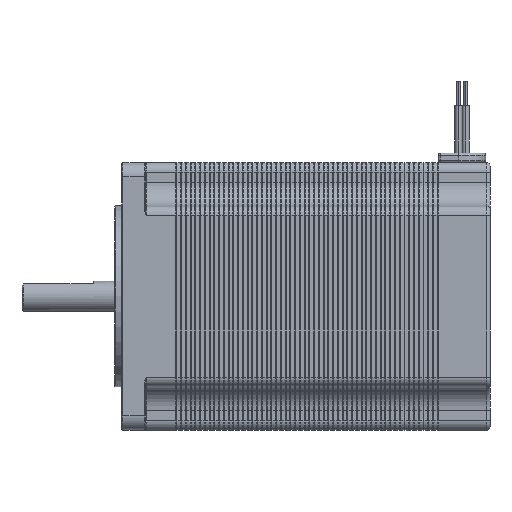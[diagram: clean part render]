
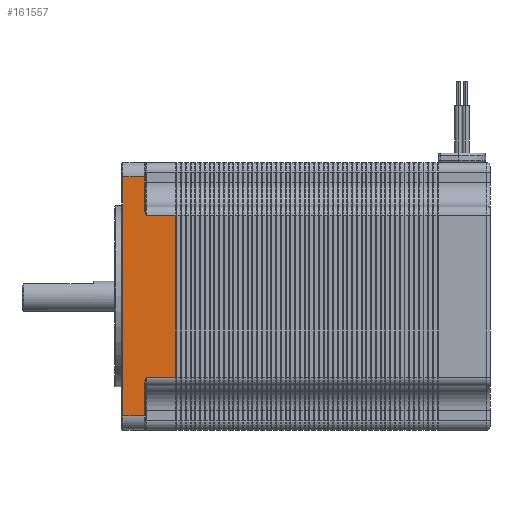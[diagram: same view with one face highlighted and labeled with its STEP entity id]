
A CAD part, left-side view. The second image highlights one B-rep face of the part: STEP entity #161557.
In plain terms, the highlighted planar face has unit normal (-1, 0, 0).
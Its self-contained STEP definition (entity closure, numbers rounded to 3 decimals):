
#8446 = CARTESIAN_POINT ( 'NONE',  ( -28.15, 72.7, 18.265 ) ) ;
#9025 = DIRECTION ( 'NONE',  ( 0., -1., 0. ) ) ;
#9076 = CARTESIAN_POINT ( 'NONE',  ( -28.15, 72.3, 17. ) ) ;
#12079 = VERTEX_POINT ( 'NONE', #180905 ) ;
#12296 = CARTESIAN_POINT ( 'NONE',  ( -28.15, 66.1, 17. ) ) ;
#12301 = EDGE_CURVE ( 'NONE', #156338, #24922, #88857, .T. ) ;
#14549 = VECTOR ( 'NONE', #89444, 1000. ) ;
#15779 = EDGE_CURVE ( 'NONE', #24922, #12079, #30907, .T. ) ;
#16186 = CARTESIAN_POINT ( 'NONE',  ( -28.15, 72.7, -17. ) ) ;
#23058 = CARTESIAN_POINT ( 'NONE',  ( -28.15, 72.7, -18.265 ) ) ;
#23870 = LINE ( 'NONE', #186132, #179171 ) ;
#24922 = VERTEX_POINT ( 'NONE', #79138 ) ;
#26631 = ORIENTED_EDGE ( 'NONE', *, *, #41715, .T. ) ;
#26783 = CARTESIAN_POINT ( 'NONE',  ( -28.15, 72.395, -17.201 ) ) ;
#29677 = EDGE_CURVE ( 'NONE', #79791, #139482, #116430, .T. ) ;
#30907 = LINE ( 'NONE', #87602, #14549 ) ;
#31138 = ORIENTED_EDGE ( 'NONE', *, *, #12301, .T. ) ;
#32198 = VECTOR ( 'NONE', #61437, 1000. ) ;
#32934 = ORIENTED_EDGE ( 'NONE', *, *, #79434, .T. ) ;
#40046 = EDGE_CURVE ( 'NONE', #48127, #129444, #52380, .T. ) ;
#40392 = ORIENTED_EDGE ( 'NONE', *, *, #124924, .T. ) ;
#41715 = EDGE_CURVE ( 'NONE', #48127, #111934, #114229, .T. ) ;
#44713 = VECTOR ( 'NONE', #148333, 1000. ) ;
#46056 = LINE ( 'NONE', #103680, #183077 ) ;
#46230 = ORIENTED_EDGE ( 'NONE', *, *, #40046, .F. ) ;
#48127 = VERTEX_POINT ( 'NONE', #159831 ) ;
#48949 = LINE ( 'NONE', #81054, #185785 ) ;
#52380 = LINE ( 'NONE', #109968, #126242 ) ;
#54133 = CARTESIAN_POINT ( 'NONE',  ( -28.15, 72.491, -17.403 ) ) ;
#55999 = CARTESIAN_POINT ( 'NONE',  ( -28.15, 77.3, 25.15 ) ) ;
#56239 = EDGE_CURVE ( 'NONE', #79791, #156338, #46056, .T. ) ;
#61437 = DIRECTION ( 'NONE',  ( 0., 0., 1. ) ) ;
#69271 = PLANE ( 'NONE',  #161890 ) ;
#73322 = ORIENTED_EDGE ( 'NONE', *, *, #29677, .F. ) ;
#73952 = DIRECTION ( 'NONE',  ( 0., 1., 0. ) ) ;
#77137 = EDGE_CURVE ( 'NONE', #160780, #139482, #23870, .T. ) ;
#79138 = CARTESIAN_POINT ( 'NONE',  ( -28.15, 72.3, -17. ) ) ;
#79434 = EDGE_CURVE ( 'NONE', #12079, #129444, #121945, .T. ) ;
#79791 = VERTEX_POINT ( 'NONE', #167750 ) ;
#79868 = CARTESIAN_POINT ( 'NONE',  ( -28.15, 72.642, 17.823 ) ) ;
#80350 = VECTOR ( 'NONE', #73952, 1000. ) ;
#81054 = CARTESIAN_POINT ( 'NONE',  ( -28.15, 72.5, 25.15 ) ) ;
#87602 = CARTESIAN_POINT ( 'NONE',  ( -28.15, 77.5, -17. ) ) ;
#88857 = B_SPLINE_CURVE_WITH_KNOTS ( 'NONE', 3,
 ( #23058, #138202, #141926, #54133, #26783, #157820 ),
 .UNSPECIFIED., .F., .F.,
 ( 4, 2, 4 ),
 ( 0., 0.001, 0.001 ),
 .UNSPECIFIED. ) ;
#89444 = DIRECTION ( 'NONE',  ( 0., -1., 0. ) ) ;
#103046 = CARTESIAN_POINT ( 'NONE',  ( -28.15, 77.3, -25.15 ) ) ;
#103358 = ORIENTED_EDGE ( 'NONE', *, *, #77137, .T. ) ;
#103680 = CARTESIAN_POINT ( 'NONE',  ( -28.15, 72.7, -17. ) ) ;
#104114 = CARTESIAN_POINT ( 'NONE',  ( -28.15, 72.7, 25.15 ) ) ;
#108130 = ORIENTED_EDGE ( 'NONE', *, *, #15779, .T. ) ;
#108505 = CARTESIAN_POINT ( 'NONE',  ( -28.15, 72.7, -18.265 ) ) ;
#109968 = CARTESIAN_POINT ( 'NONE',  ( -28.15, 77.5, 17. ) ) ;
#110011 = CARTESIAN_POINT ( 'NONE',  ( -28.15, 72.7, 18.04 ) ) ;
#110797 = DIRECTION ( 'NONE',  ( 1., 0., 0. ) ) ;
#111934 = VERTEX_POINT ( 'NONE', #8446 ) ;
#112812 = CARTESIAN_POINT ( 'NONE',  ( -28.15, 72.395, 17.202 ) ) ;
#114229 = B_SPLINE_CURVE_WITH_KNOTS ( 'NONE', 3,
 ( #9076, #112812, #126954, #79868, #110011, #184537 ),
 .UNSPECIFIED., .F., .F.,
 ( 4, 2, 4 ),
 ( 0., 0.001, 0.001 ),
 .UNSPECIFIED. ) ;
#116430 = LINE ( 'NONE', #173863, #80350 ) ;
#120910 = LINE ( 'NONE', #16186, #32198 ) ;
#121945 = LINE ( 'NONE', #132322, #44713 ) ;
#124399 = DIRECTION ( 'NONE',  ( 0., 1., 0. ) ) ;
#124924 = EDGE_CURVE ( 'NONE', #111934, #137145, #120910, .T. ) ;
#126242 = VECTOR ( 'NONE', #9025, 1000. ) ;
#126617 = ORIENTED_EDGE ( 'NONE', *, *, #56239, .T. ) ;
#126687 = DIRECTION ( 'NONE',  ( 0., 0., -1. ) ) ;
#126954 = CARTESIAN_POINT ( 'NONE',  ( -28.15, 72.491, 17.403 ) ) ;
#129444 = VERTEX_POINT ( 'NONE', #12296 ) ;
#132322 = CARTESIAN_POINT ( 'NONE',  ( -28.15, 66.1, -17. ) ) ;
#137145 = VERTEX_POINT ( 'NONE', #104114 ) ;
#138202 = CARTESIAN_POINT ( 'NONE',  ( -28.15, 72.7, -18.04 ) ) ;
#139482 = VERTEX_POINT ( 'NONE', #103046 ) ;
#140050 = FACE_OUTER_BOUND ( 'NONE', #147127, .T. ) ;
#141272 = EDGE_CURVE ( 'NONE', #137145, #160780, #48949, .T. ) ;
#141926 = CARTESIAN_POINT ( 'NONE',  ( -28.15, 72.642, -17.823 ) ) ;
#147127 = EDGE_LOOP ( 'NONE', ( #149689, #103358, #73322, #126617, #31138, #108130, #32934, #46230, #26631, #40392 ) ) ;
#148333 = DIRECTION ( 'NONE',  ( 0., 0., 1. ) ) ;
#149689 = ORIENTED_EDGE ( 'NONE', *, *, #141272, .T. ) ;
#156338 = VERTEX_POINT ( 'NONE', #108505 ) ;
#157820 = CARTESIAN_POINT ( 'NONE',  ( -28.15, 72.3, -17. ) ) ;
#159831 = CARTESIAN_POINT ( 'NONE',  ( -28.15, 72.3, 17. ) ) ;
#160780 = VERTEX_POINT ( 'NONE', #55999 ) ;
#161087 = DIRECTION ( 'NONE',  ( 0., 0., 1. ) ) ;
#161557 = ADVANCED_FACE ( 'NONE', ( #140050 ), #69271, .F. ) ;
#161890 = AXIS2_PLACEMENT_3D ( 'NONE', #167302, #110797, #168220 ) ;
#167302 = CARTESIAN_POINT ( 'NONE',  ( -28.15, 77.5, -17. ) ) ;
#167750 = CARTESIAN_POINT ( 'NONE',  ( -28.15, 72.7, -25.15 ) ) ;
#168220 = DIRECTION ( 'NONE',  ( 0., 0., -1. ) ) ;
#173863 = CARTESIAN_POINT ( 'NONE',  ( -28.15, 72.5, -25.15 ) ) ;
#179171 = VECTOR ( 'NONE', #126687, 1000. ) ;
#180905 = CARTESIAN_POINT ( 'NONE',  ( -28.15, 66.1, -17. ) ) ;
#183077 = VECTOR ( 'NONE', #161087, 1000. ) ;
#184537 = CARTESIAN_POINT ( 'NONE',  ( -28.15, 72.7, 18.265 ) ) ;
#185785 = VECTOR ( 'NONE', #124399, 1000. ) ;
#186132 = CARTESIAN_POINT ( 'NONE',  ( -28.15, 77.3, -25.15 ) ) ;
